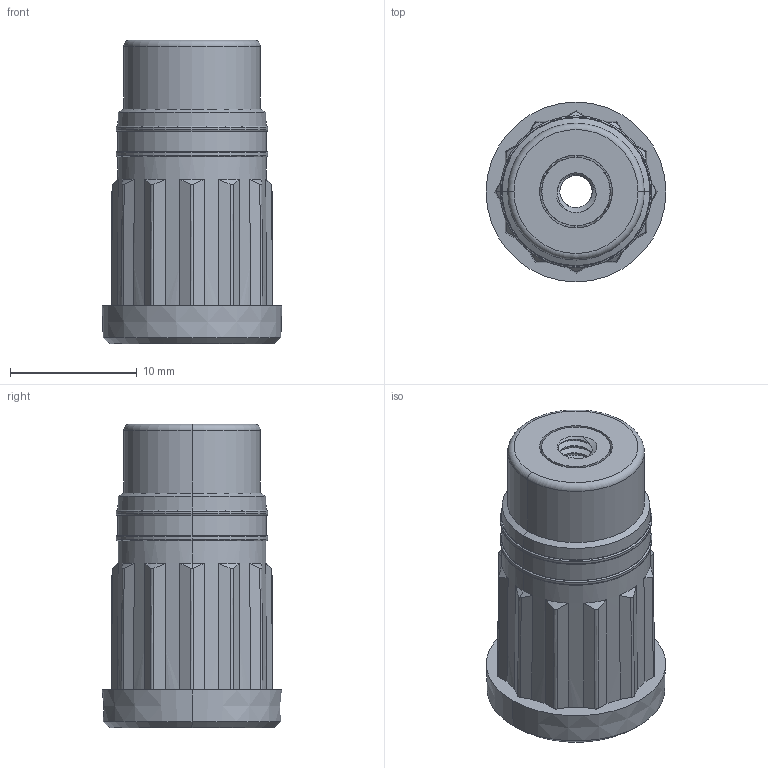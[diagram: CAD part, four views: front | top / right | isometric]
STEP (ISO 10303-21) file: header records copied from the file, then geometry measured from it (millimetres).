
FILE_DESCRIPTION (( 'STEP AP214' ), '1' );
FILE_NAME ('CT2914-1.STEP', '2017-10-12T15:25:27', ( '' ), ( '' ), 'SwSTEP 2.0', 'SolidWorks 2014', '' );
FILE_SCHEMA (( 'AUTOMOTIVE_DESIGN' ));
Length unit declared in the file: millimetre
Products named in the file (5): 440-3xx_440-308; 440-310_440-310-01; CT2914-1; 440-310; 440-3xx
Assembly tree (2 placements, depth 2):
  CT2914-1
    440-310_440-310-01
    440-3xx_440-308
  440-310
  440-3xx
Bounding box: 14.21 x 14.21 x 24 mm (x, y, z)
Volume: 1744.4 mm3; surface area: 3080 mm2
Topology: 2 solids, 2 shells, 251 faces, 617 edges, 396 vertices
Faces by surface type: plane 144, cone 58, cylinder 18, torus 16, bspline 15
Entity records: 8884 total; most frequent: CARTESIAN_POINT 2947, ORIENTED_EDGE 1234, DIRECTION 1176, EDGE_CURVE 617, AXIS2_PLACEMENT_3D 443, VERTEX_POINT 396, LINE 290, VECTOR 290
